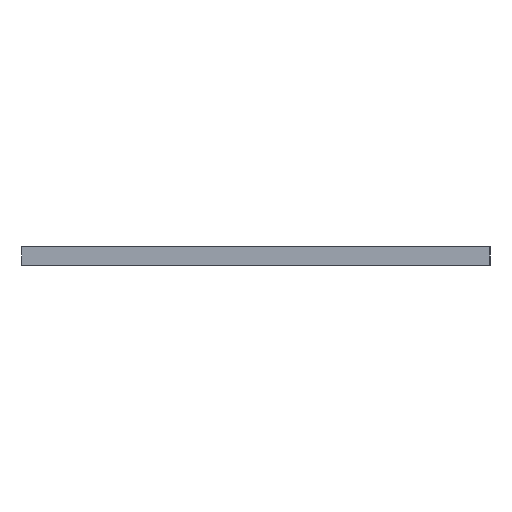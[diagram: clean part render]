
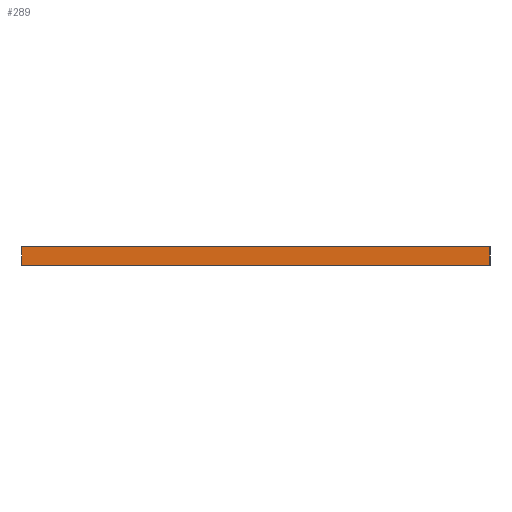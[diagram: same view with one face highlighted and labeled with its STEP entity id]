
A CAD part, left-side view. The second image highlights one B-rep face of the part: STEP entity #289.
In plain terms, the highlighted planar face has unit normal (-1, 0, 0).
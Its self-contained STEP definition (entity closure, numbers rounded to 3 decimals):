
#2 = EDGE_LOOP ( 'NONE', ( #429, #666, #324, #12 ) ) ;
#12 = ORIENTED_EDGE ( 'NONE', *, *, #412, .F. ) ;
#23 = AXIS2_PLACEMENT_3D ( 'NONE', #277, #692, #268 ) ;
#71 = CARTESIAN_POINT ( 'NONE',  ( 0., -15., 0.6 ) ) ;
#84 = VERTEX_POINT ( 'NONE', #513 ) ;
#99 = VECTOR ( 'NONE', #224, 1000. ) ;
#224 = DIRECTION ( 'NONE',  ( 0., 0., -1. ) ) ;
#252 = CARTESIAN_POINT ( 'NONE',  ( 0., 15., 0.6 ) ) ;
#268 = DIRECTION ( 'NONE',  ( 0., 0., 1. ) ) ;
#277 = CARTESIAN_POINT ( 'NONE',  ( 0., 15., -0.6 ) ) ;
#289 = ADVANCED_FACE ( 'NONE', ( #484 ), #639, .T. ) ;
#321 = DIRECTION ( 'NONE',  ( 0., -1., 0. ) ) ;
#324 = ORIENTED_EDGE ( 'NONE', *, *, #613, .F. ) ;
#406 = VECTOR ( 'NONE', #674, 1000. ) ;
#412 = EDGE_CURVE ( 'NONE', #84, #657, #693, .T. ) ;
#419 = CARTESIAN_POINT ( 'NONE',  ( 0., 15., 0.6 ) ) ;
#429 = ORIENTED_EDGE ( 'NONE', *, *, #462, .F. ) ;
#446 = VERTEX_POINT ( 'NONE', #71 ) ;
#462 = EDGE_CURVE ( 'NONE', #478, #84, #783, .T. ) ;
#478 = VERTEX_POINT ( 'NONE', #773 ) ;
#484 = FACE_OUTER_BOUND ( 'NONE', #2, .T. ) ;
#504 = LINE ( 'NONE', #686, #641 ) ;
#513 = CARTESIAN_POINT ( 'NONE',  ( 0., 15., -0.6 ) ) ;
#536 = EDGE_CURVE ( 'NONE', #446, #478, #729, .T. ) ;
#613 = EDGE_CURVE ( 'NONE', #657, #446, #504, .T. ) ;
#639 = PLANE ( 'NONE',  #23 ) ;
#641 = VECTOR ( 'NONE', #321, 1000. ) ;
#651 = CARTESIAN_POINT ( 'NONE',  ( 0., -15., 0.6 ) ) ;
#657 = VERTEX_POINT ( 'NONE', #419 ) ;
#666 = ORIENTED_EDGE ( 'NONE', *, *, #536, .F. ) ;
#674 = DIRECTION ( 'NONE',  ( 0., 0., 1. ) ) ;
#686 = CARTESIAN_POINT ( 'NONE',  ( 0., -15., 0.6 ) ) ;
#692 = DIRECTION ( 'NONE',  ( -1., 0., 0. ) ) ;
#693 = LINE ( 'NONE', #252, #406 ) ;
#709 = DIRECTION ( 'NONE',  ( 0., 1., 0. ) ) ;
#729 = LINE ( 'NONE', #651, #99 ) ;
#736 = CARTESIAN_POINT ( 'NONE',  ( 0., -15., -0.6 ) ) ;
#764 = VECTOR ( 'NONE', #709, 1000. ) ;
#773 = CARTESIAN_POINT ( 'NONE',  ( 0., -15., -0.6 ) ) ;
#783 = LINE ( 'NONE', #736, #764 ) ;
